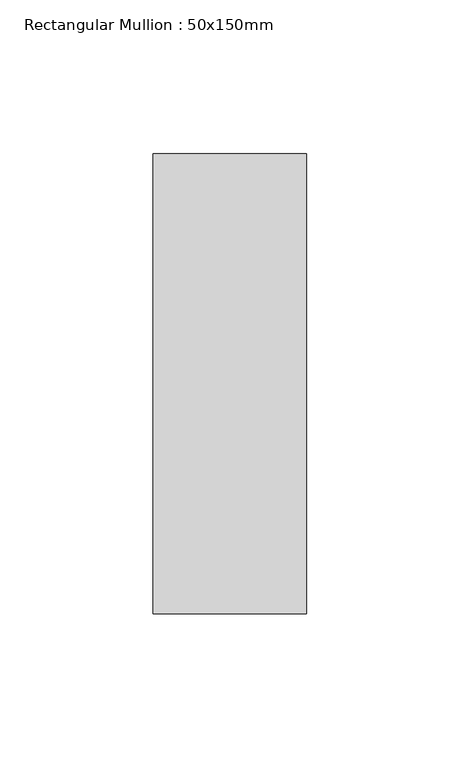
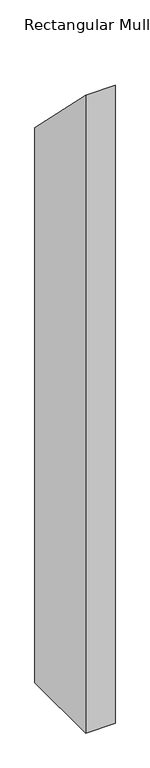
"""IFC4 building model written with IfcOpenShell, lengths in millimetres: member geometry, Rectangular Mullion : 50x150mm."""

from ifc_helpers import new_model, si_unit, frame, origin, place, context, project, spatial, polyline, outline, extrude, source, transform, mapped, element, save


def rectangular_mullion_50x150mm_9f7ecabc(model_context):
    return source(origin(), model_context, "Body", "SweptSolid", [
        extrude(outline(polyline([(-75.0, 75.0), (75.0, -75.0), (75.0, -1075.0000001), (-75.0, -1075.0000001), (-75.0, 75.0)])), frame((-25.0, 0.0, 0.0), z_axis=(1.0, 0.0, 0.0), x_axis=(0.0, 1.0, 0.0)), (0.0, 0.0, 1.0), 50.0),
    ])


if __name__ == "__main__":
    model = new_model("IFC4")
    model_context = context("Model", 3, world=origin())
    ifc_project = project(units=[si_unit("LENGTHUNIT", "METRE", prefix="MILLI")], contexts=[model_context])
    site = spatial("IfcSite", under=ifc_project)
    building = spatial("IfcBuilding", under=site)
    placement = place(None, origin())
    rectangular_mullion_50x150mm_shape = rectangular_mullion_50x150mm_9f7ecabc(model_context)
    element("IfcMember", 1, ObjectType="Rectangular Mullion : 50x150mm", at=placement, inside=building, context=model_context, shape_type="MappedRepresentation", body=[
        mapped(rectangular_mullion_50x150mm_shape, transform((0.0, 0.0, 0.0), x_axis=(1.0, 0.0, 0.0), y_axis=(0.0, 1.0, 0.0), z_axis=(0.0, 0.0, 1.0))),
    ])
    save(model, "model.ifc")
